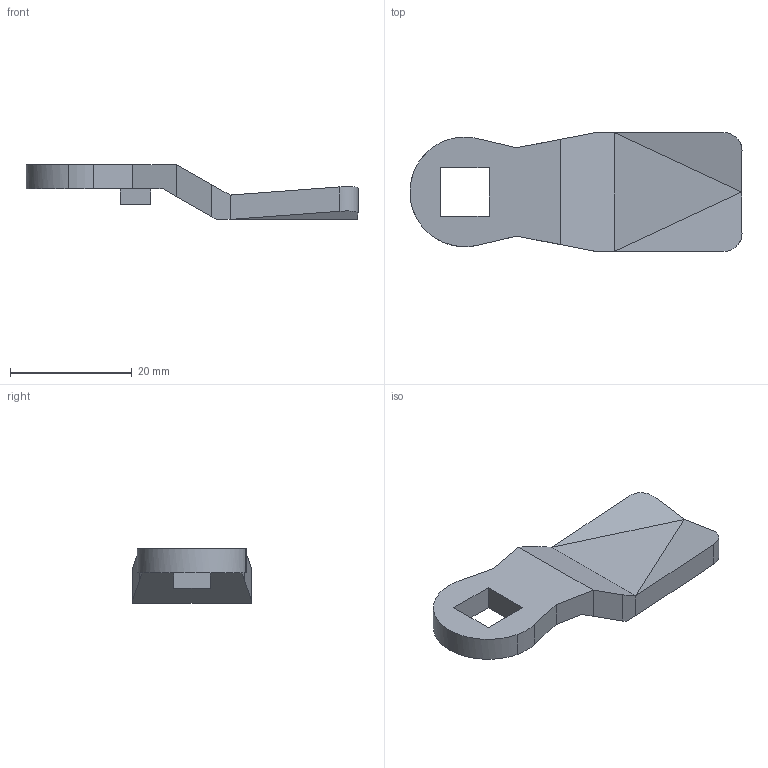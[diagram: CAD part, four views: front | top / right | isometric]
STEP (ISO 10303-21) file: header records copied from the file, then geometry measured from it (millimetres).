
FILE_DESCRIPTION (( 'STEP AP214' ), '1' );
FILE_NAME ('1.4045 Salpa -5.STEP', '2025-08-06T10:03:11', ( '' ), ( '' ), 'SwSTEP 2.0', 'SolidWorks 2025', '' );
FILE_SCHEMA (( 'AUTOMOTIVE_DESIGN' ));
Length unit declared in the file: millimetre
Products named in the file (1): 1.4045 Salpa -5
Bounding box: 54.5 x 19.5 x 9 mm (x, y, z)
Volume: 3832.1 mm3; surface area: 2585.3 mm2
Topology: 1 solids, 1 shells, 35 faces, 84 edges, 52 vertices
Faces by surface type: plane 31, cylinder 4
Entity records: 1185 total; most frequent: CARTESIAN_POINT 516, ORIENTED_EDGE 168, EDGE_CURVE 84, B_SPLINE_CURVE_WITH_KNOTS 84, DIRECTION 72, VERTEX_POINT 52, EDGE_LOOP 38, AXIS2_PLACEMENT_3D 36
